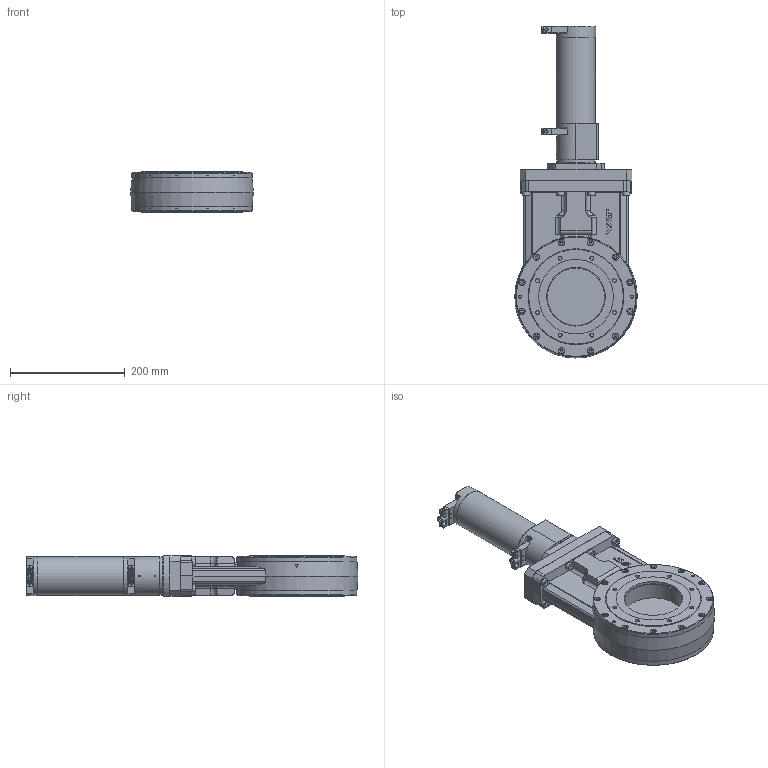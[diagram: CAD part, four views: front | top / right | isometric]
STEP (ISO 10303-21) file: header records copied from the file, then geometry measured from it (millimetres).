
FILE_DESCRIPTION(/* description */ (''),/* implementation_level */ '2;1');
FILE_NAME(/* name */ '1239632292_203.stp',/* time_stamp */ '2015-03-06T13:52:16+01:00',/* author */ (''),/* organization */ (''),/* preprocessor_version */ 'ST-DEVELOPER v11',/* originating_system */ 'SIEMENS PLM Software NX 7.5',/* authorisation */ '');
FILE_SCHEMA (('AP203_CONFIGURATION_CONTROLLED_3D_DESIGN_OF_MECHANICAL_PARTS_AND_ASSEMBLIES_MIM_LF'));
Length unit declared in the file: millimetre
Products named in the file (31): 80477-01.1; 80478-01.1; N-6195-007.2; 87105-01.1; N-6121-032.2; 98926-01.1; 73662-01.1; 83522-01.3_24696ID; N-6091-494.1; 203594.1; 83414-01.1; 83699-01.1; 83529-01.1; 77379-01.1; N-6016-478.2; N-6091-472.1; 224800.1; 83523-01.2; 83521-01.1; N-5100-262_1.1; 224840.1; 769913; 87090-R1.22_NX-ARRAGMNTMB betaetigt Hub 5mm, Innenteile UNTERDRUECKT; 87090-R1.22_NX-ARRAGMNTMB unbetaetigt Hub 0mm, Innenteile UNTERDRUECKT; 98926-R1.1; 761992_NX-ARRAGMNTMassbild geschlossen; 78856-R1.3; 78855-r1.9_NX-ARRAGMNTMassbild, alle Innenteile unterdrueckt; 352602.1; 83520-r1.7_NX-ARRAGMNTMassbild; 774939
Assembly tree (72 placements, depth 4):
  774939
    83520-r1.7_NX-ARRAGMNTMassbild
      N-5100-262_1.1  x2
      83521-01.1
      83523-01.2
      224800.1  x24
      N-6091-472.1  x4
      352602.1
        83522-01.3_24696ID
    78855-r1.9_NX-ARRAGMNTMassbild, alle Innenteile unterdrueckt  x2
      N-6016-478.2
      78856-R1.3
        73662-01.1
      77379-01.1
    761992_NX-ARRAGMNTMassbild geschlossen
      98926-R1.1
        98926-01.1
        N-6121-032.2
      83529-01.1
      83699-01.1
      83414-01.1  x2
      87090-R1.22_NX-ARRAGMNTMB unbetaetigt Hub 0mm, Innenteile UNTERDRUECKT
        87105-01.1
        N-6195-007.2
        80478-01.1
        80477-01.1
      87090-R1.22_NX-ARRAGMNTMB betaetigt Hub 5mm, Innenteile UNTERDRUECKT
        87105-01.1
        N-6195-007.2
        80478-01.1
        80477-01.1
    224840.1  x8
    769913
      203594.1
      N-6091-494.1  x2
Bounding box: 213.51 x 578.6 x 70.2 mm (x, y, z)
Volume: 2761816.6 mm3; surface area: 637065.2 mm2
Topology: 115 solids, 115 shells, 2002 faces, 4652 edges, 2981 vertices
Faces by surface type: plane 987, cylinder 614, bspline 186, cone 180, torus 32, revolution 2, sphere 1
Full cylindrical faces by diameter (mm): 1.875 x2, 2.115 x8, 2.475 x4, 2.5 x6, 2.56 x2, 2.575 x2, 3 x7, 3.3 x3, 3.5 x10, 4.2 x3, 4.7 x2, 4.8 x1, 4.96 x24, 4.99 x4, 5 x54, 5.054 x4, 5.5 x2, 5.65 x2, 5.7 x2, 5.8 x2, 6 x49, 6.475 x2, 6.8 x30, 6.98 x2, 7 x24, 7.008 x1, 7.018 x1, 7.045 x2, 7.989 x2, 8 x12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
Entity records: 41580 total; most frequent: CARTESIAN_POINT 11199, DIRECTION 5149, ORIENTED_EDGE 4842, EDGE_CURVE 2421, AXIS2_PLACEMENT_3D 2036, EDGE_LOOP 1784, VERTEX_POINT 1767, ADVANCED_FACE 1178
